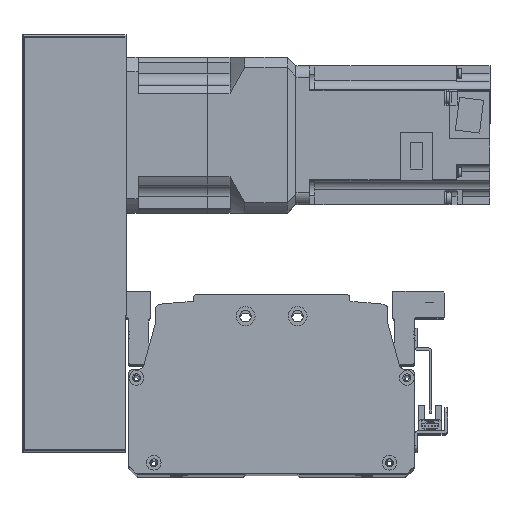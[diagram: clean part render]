
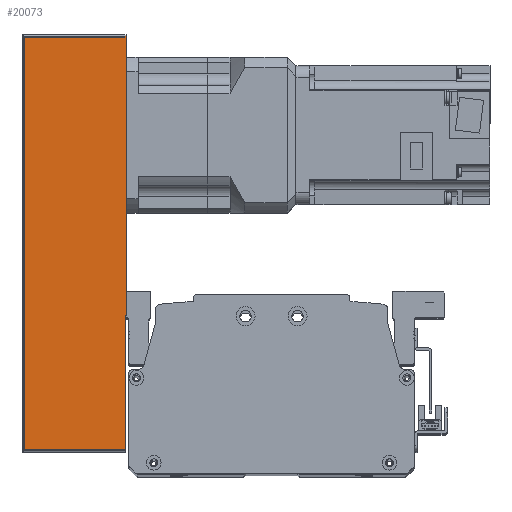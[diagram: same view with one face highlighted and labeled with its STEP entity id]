
A CAD part, top view. The second image highlights one B-rep face of the part: STEP entity #20073.
In plain terms, the highlighted planar face has unit normal (0, 0, 1) as drawn and (0, -1, 0) by its records, which use the part's own axes.
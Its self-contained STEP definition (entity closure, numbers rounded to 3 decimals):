
#595=PLANE('',#21895);
#1716=LINE('',#32235,#3376);
#1739=LINE('',#32322,#3399);
#1740=LINE('',#32330,#3400);
#1748=LINE('',#32356,#3408);
#3376=VECTOR('',#26083,10.);
#3399=VECTOR('',#26194,10.);
#3400=VECTOR('',#26205,10.);
#3408=VECTOR('',#26241,10.);
#5396=FACE_OUTER_BOUND('',#6828,.T.);
#6828=EDGE_LOOP('',(#16314,#16315,#16316,#16317));
#9696=VERTEX_POINT('',#32232);
#9697=VERTEX_POINT('',#32234);
#9717=VERTEX_POINT('',#32318);
#9718=VERTEX_POINT('',#32324);
#12055=EDGE_CURVE('',#9696,#9697,#1716,.T.);
#12100=EDGE_CURVE('',#9697,#9717,#1739,.T.);
#12104=EDGE_CURVE('',#9718,#9696,#1740,.T.);
#12118=EDGE_CURVE('',#9717,#9718,#1748,.T.);
#16314=ORIENTED_EDGE('',*,*,#12100,.F.);
#16315=ORIENTED_EDGE('',*,*,#12055,.F.);
#16316=ORIENTED_EDGE('',*,*,#12104,.F.);
#16317=ORIENTED_EDGE('',*,*,#12118,.F.);
#20073=ADVANCED_FACE('',(#5396),#595,.T.);
#21895=AXIS2_PLACEMENT_3D('',#32361,#26250,#26251);
#26083=DIRECTION('',(1.,0.,0.));
#26194=DIRECTION('',(0.,0.,-1.));
#26205=DIRECTION('',(0.,0.,1.));
#26241=DIRECTION('',(-1.,0.,0.));
#26250=DIRECTION('center_axis',(0.,-1.,0.));
#26251=DIRECTION('ref_axis',(1.,0.,0.));
#32232=CARTESIAN_POINT('',(-119.5,-51.,30.));
#32234=CARTESIAN_POINT('',(119.5,-51.,30.));
#32235=CARTESIAN_POINT('',(120.5,-51.,30.));
#32318=CARTESIAN_POINT('',(119.5,-51.,-29.));
#32322=CARTESIAN_POINT('',(119.5,-51.,0.));
#32324=CARTESIAN_POINT('',(-119.5,-51.,-29.));
#32330=CARTESIAN_POINT('',(-119.5,-51.,0.));
#32356=CARTESIAN_POINT('',(-60.25,-51.,-29.));
#32361=CARTESIAN_POINT('Origin',(-120.5,-51.,0.));
